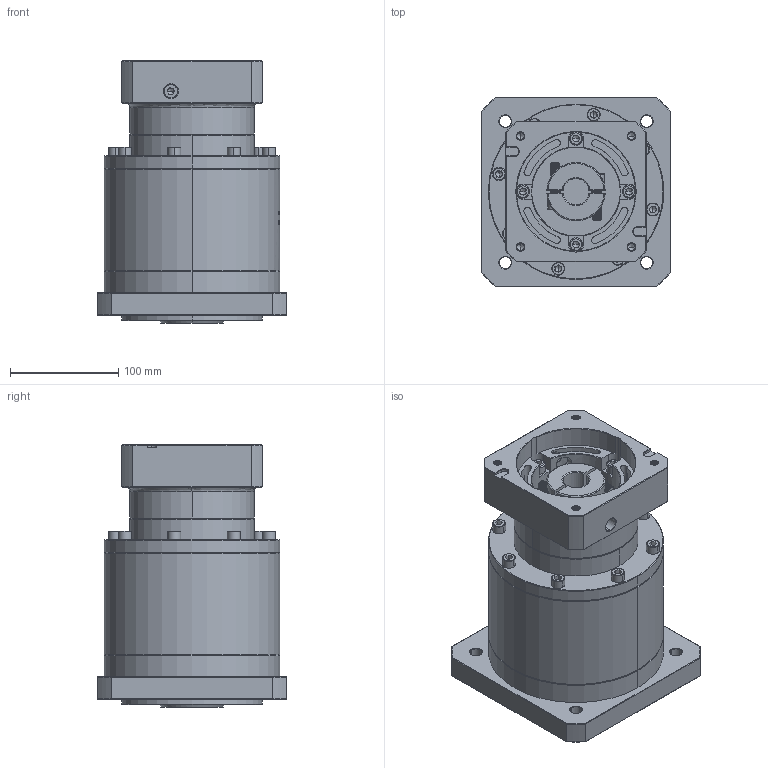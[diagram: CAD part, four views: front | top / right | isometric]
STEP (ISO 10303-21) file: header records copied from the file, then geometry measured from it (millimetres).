
FILE_DESCRIPTION (( 'STEP AP214' ), '1' );
FILE_NAME ('ZF160-K35-L3-24-110-145-M8.step', '2023-03-22T04:00:29', ( '' ), ( '' ), 'SwSTEP 2.0', 'SolidWorks 2016', '' );
FILE_SCHEMA (( 'AUTOMOTIVE_DESIGN' ));
Length unit declared in the file: millimetre
Products named in the file (1): ZF160-K35-L3-24-110-145-M8
Bounding box: 175 x 175 x 242.2 mm (x, y, z)
Volume: 4044386.3 mm3; surface area: 291536.9 mm2
Topology: 6 solids, 6 shells, 1857 faces, 4711 edges, 2973 vertices
Faces by surface type: plane 765, cylinder 474, cone 355, bspline 207, torus 56
Entity records: 96050 total; most frequent: CARTESIAN_POINT 32990, ORIENTED_EDGE 9318, DIRECTION 8233, EDGE_CURVE 4659, VERTEX_POINT 2973, AXIS2_PLACEMENT_3D 2857, VECTOR 2519, LINE 2519
